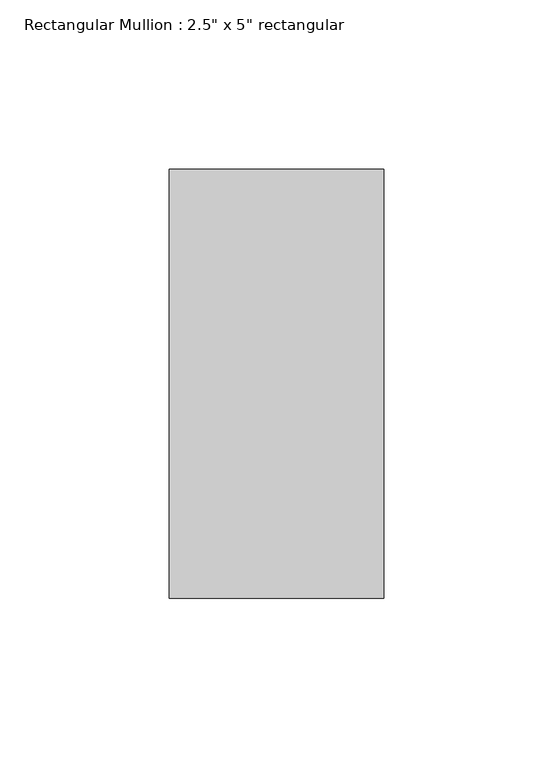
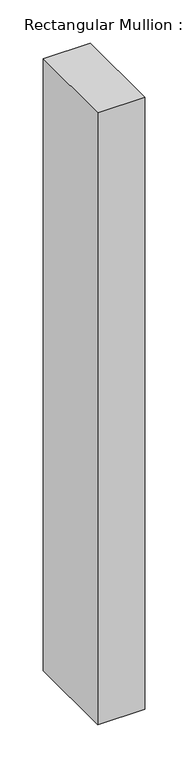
"""IFC4 building model written with IfcOpenShell, lengths in millimetres: member geometry."""

from ifc_helpers import new_model, si_unit, frame, origin, place, context, project, spatial, polyline, outline, extrude, source, transform, mapped, element, save


def member_095cd8e0(model_context):
    return source(origin(), model_context, "Body", "SweptSolid", [
        extrude(outline(polyline([(31.75, 63.5), (31.75, -63.5), (-31.75, -63.5), (-31.75, 63.5), (31.75, 63.5)])), frame((0.0, 0.0, -868.6000019), z_axis=(0.0, 0.0, 1.0), x_axis=(1.0, 0.0, 0.0)), (0.0, 0.0, 1.0), 868.6000019),
    ])


if __name__ == "__main__":
    model = new_model("IFC4")
    model_context = context("Model", 3, world=origin())
    ifc_project = project(units=[si_unit("LENGTHUNIT", "METRE", prefix="MILLI")], contexts=[model_context])
    site = spatial("IfcSite", under=ifc_project)
    building = spatial("IfcBuilding", under=site)
    placement = place(None, origin())
    member_shape = member_095cd8e0(model_context)
    element("IfcMember", 1, ObjectType="Rectangular Mullion : 2.5\" x 5\" rectangular", at=placement, inside=building, context=model_context, shape_type="MappedRepresentation", body=[
        mapped(member_shape, transform((0.0, 0.0, 0.0), x_axis=(1.0, 0.0, 0.0), y_axis=(0.0, 1.0, 0.0), z_axis=(0.0, 0.0, 1.0))),
    ])
    save(model, "model.ifc")
